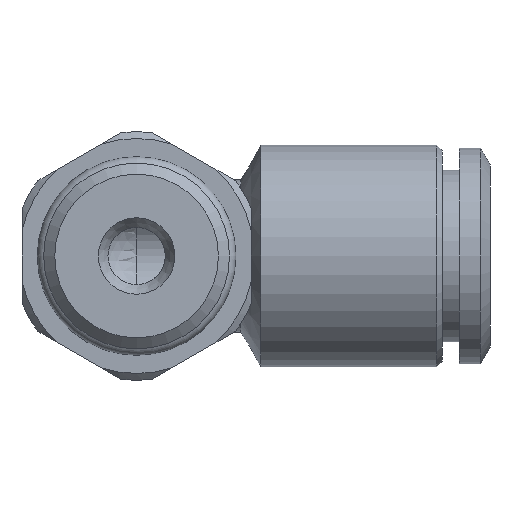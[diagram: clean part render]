
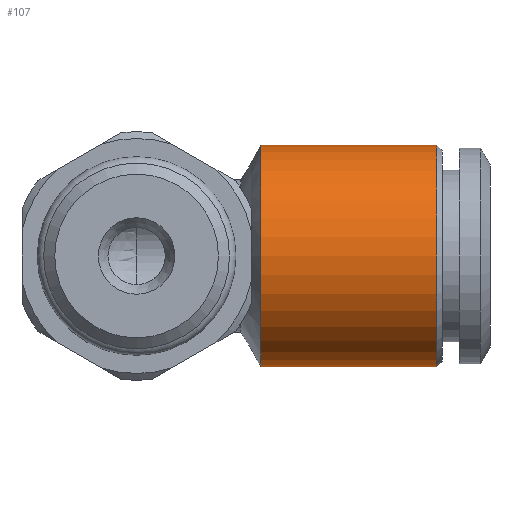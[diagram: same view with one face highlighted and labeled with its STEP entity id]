
A CAD part, front view. The second image highlights one B-rep face of the part: STEP entity #107.
In plain terms, the highlighted cylindrical face has radius 5.8 mm (diameter 11.6 mm), a full revolution.
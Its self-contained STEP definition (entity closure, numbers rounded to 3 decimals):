
#107=ADVANCED_FACE('',(#255,#256),#257,.T.);
#255=FACE_OUTER_BOUND('',#448,.T.);
#256=FACE_OUTER_BOUND('',#449,.T.);
#257=CYLINDRICAL_SURFACE('',#450,5.8);
#448=EDGE_LOOP('',(#691));
#449=EDGE_LOOP('',(#692));
#450=AXIS2_PLACEMENT_3D('',#693,#694,#695);
#691=ORIENTED_EDGE('',*,*,#1057,.T.);
#692=ORIENTED_EDGE('',*,*,#1000,.F.);
#693=CARTESIAN_POINT('',(11.1,0.,0.0));
#694=DIRECTION('',(-1.0,0.,0.));
#695=DIRECTION('',(0.,-1.0,0.));
#1000=EDGE_CURVE('',#1158,#1158,#1159,.F.);
#1057=EDGE_CURVE('',#1256,#1256,#1257,.T.);
#1158=VERTEX_POINT('',#1416);
#1159=CIRCLE('',#1417,5.8);
#1256=VERTEX_POINT('',#1565);
#1257=CIRCLE('',#1566,5.8);
#1416=CARTESIAN_POINT('',(15.7,-5.8,0.));
#1417=AXIS2_PLACEMENT_3D('',#1741,#1742,#1743);
#1565=CARTESIAN_POINT('',(6.5,5.8,0.0));
#1566=AXIS2_PLACEMENT_3D('',#1807,#1808,#1809);
#1741=CARTESIAN_POINT('',(15.7,0.,0.0));
#1742=DIRECTION('',(-1.0,0.,0.0));
#1743=DIRECTION('',(0.,-1.0,0.0));
#1807=CARTESIAN_POINT('',(6.5,0.,0.0));
#1808=DIRECTION('',(1.0,0.,0.0));
#1809=DIRECTION('',(0.,1.0,0.0));
